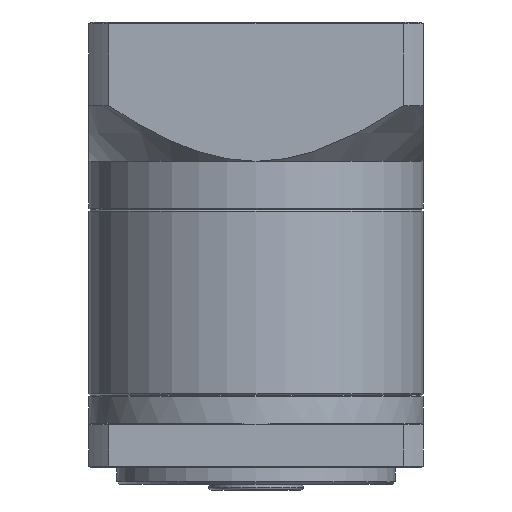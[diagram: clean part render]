
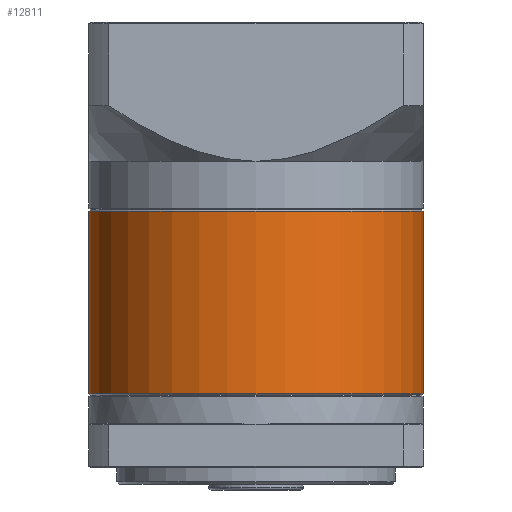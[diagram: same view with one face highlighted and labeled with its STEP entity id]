
A CAD part, front view. The second image highlights one B-rep face of the part: STEP entity #12811.
In plain terms, the highlighted cylindrical face has radius 30 mm (diameter 60 mm), a partial arc.
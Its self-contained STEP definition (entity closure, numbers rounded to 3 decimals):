
#2665 = CARTESIAN_POINT ( 'NONE',  ( -87.838, 40.689, -4.571 ) ) ;
#2680 = DIRECTION ( 'NONE',  ( 1., 0., 0. ) ) ;
#4075 = LINE ( 'NONE', #37784, #18066 ) ;
#8677 = EDGE_CURVE ( 'NONE', #33434, #68331, #51348, .T. ) ;
#9626 = CARTESIAN_POINT ( 'NONE',  ( -27.838, 40.689, -4.571 ) ) ;
#12811 = ADVANCED_FACE ( 'NONE', ( #59805 ), #16621, .T. ) ;
#16621 = CYLINDRICAL_SURFACE ( 'NONE', #89241, 30. ) ;
#16959 = CIRCLE ( 'NONE', #52547, 30. ) ;
#18066 = VECTOR ( 'NONE', #44721, 1000. ) ;
#18932 = CARTESIAN_POINT ( 'NONE',  ( -87.838, 40.689, -37.371 ) ) ;
#22054 = CIRCLE ( 'NONE', #25453, 30. ) ;
#25453 = AXIS2_PLACEMENT_3D ( 'NONE', #32423, #80613, #39404 ) ;
#27018 = ORIENTED_EDGE ( 'NONE', *, *, #78961, .T. ) ;
#32423 = CARTESIAN_POINT ( 'NONE',  ( -57.838, 40.689, -37.371 ) ) ;
#33274 = EDGE_LOOP ( 'NONE', ( #52456, #61110, #53393, #27018 ) ) ;
#33434 = VERTEX_POINT ( 'NONE', #2665 ) ;
#34591 = VERTEX_POINT ( 'NONE', #9626 ) ;
#36927 = DIRECTION ( 'NONE',  ( 0., 0., -1. ) ) ;
#37784 = CARTESIAN_POINT ( 'NONE',  ( -27.838, 40.689, -4.321 ) ) ;
#39404 = DIRECTION ( 'NONE',  ( 1., 0., 0. ) ) ;
#43961 = DIRECTION ( 'NONE',  ( 0., 0., -1. ) ) ;
#44721 = DIRECTION ( 'NONE',  ( 0., 0., -1. ) ) ;
#46592 = CARTESIAN_POINT ( 'NONE',  ( -27.838, 40.689, -37.371 ) ) ;
#46986 = CARTESIAN_POINT ( 'NONE',  ( -87.838, 40.689, -4.321 ) ) ;
#51348 = LINE ( 'NONE', #46986, #67432 ) ;
#52456 = ORIENTED_EDGE ( 'NONE', *, *, #84620, .F. ) ;
#52547 = AXIS2_PLACEMENT_3D ( 'NONE', #85183, #43961, #2680 ) ;
#53393 = ORIENTED_EDGE ( 'NONE', *, *, #8677, .T. ) ;
#59805 = FACE_OUTER_BOUND ( 'NONE', #33274, .T. ) ;
#61110 = ORIENTED_EDGE ( 'NONE', *, *, #78122, .T. ) ;
#64620 = DIRECTION ( 'NONE',  ( -1., 0., 0. ) ) ;
#67432 = VECTOR ( 'NONE', #67721, 1000. ) ;
#67721 = DIRECTION ( 'NONE',  ( 0., 0., -1. ) ) ;
#68331 = VERTEX_POINT ( 'NONE', #18932 ) ;
#73834 = VERTEX_POINT ( 'NONE', #46592 ) ;
#78122 = EDGE_CURVE ( 'NONE', #34591, #33434, #16959, .T. ) ;
#78154 = CARTESIAN_POINT ( 'NONE',  ( -57.838, 40.689, -4.321 ) ) ;
#78961 = EDGE_CURVE ( 'NONE', #68331, #73834, #22054, .T. ) ;
#80613 = DIRECTION ( 'NONE',  ( 0., 0., 1. ) ) ;
#84620 = EDGE_CURVE ( 'NONE', #34591, #73834, #4075, .T. ) ;
#85183 = CARTESIAN_POINT ( 'NONE',  ( -57.838, 40.689, -4.571 ) ) ;
#89241 = AXIS2_PLACEMENT_3D ( 'NONE', #78154, #36927, #64620 ) ;
